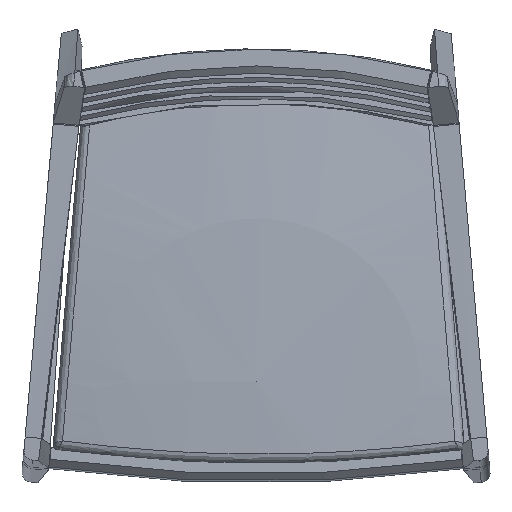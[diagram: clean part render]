
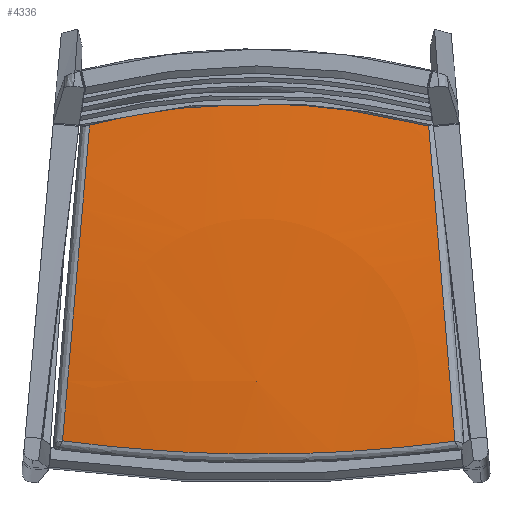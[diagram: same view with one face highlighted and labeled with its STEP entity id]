
A CAD part, top view. The second image highlights one B-rep face of the part: STEP entity #4336.
In plain terms, the highlighted spherical face has radius 3039.64 mm.
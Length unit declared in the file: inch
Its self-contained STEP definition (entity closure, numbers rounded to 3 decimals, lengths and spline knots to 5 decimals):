
#31=SPHERICAL_SURFACE('',#4665,119.67089);
#436=FACE_OUTER_BOUND('',#715,.T.);
#715=EDGE_LOOP('',(#3223,#3224,#3225,#3226,#3227,#3228,#3229,#3230,#3231));
#970=B_SPLINE_CURVE_WITH_KNOTS('',3,(#7085,#7086,#7087,#7088,#7089),
 .UNSPECIFIED.,.F.,.F.,(4,1,4),(0.43653,9.22132,10.57898),
 .UNSPECIFIED.);
#971=B_SPLINE_CURVE_WITH_KNOTS('',3,(#7091,#7092,#7093,#7094),
 .UNSPECIFIED.,.F.,.F.,(4,4),(0.32272,17.71626),
 .UNSPECIFIED.);
#972=B_SPLINE_CURVE_WITH_KNOTS('',3,(#7096,#7097,#7098,#7099,#7100,#7101,
#7102),.UNSPECIFIED.,.F.,.F.,(4,3,4),(-0.00002,4.40806,
8.72227),.UNSPECIFIED.);
#973=B_SPLINE_CURVE_WITH_KNOTS('',3,(#7104,#7105,#7106,#7107),
 .UNSPECIFIED.,.F.,.F.,(4,4),(0.33312,9.05583),
 .UNSPECIFIED.);
#974=B_SPLINE_CURVE_WITH_KNOTS('',3,(#7109,#7110,#7111,#7112),
 .UNSPECIFIED.,.F.,.F.,(4,4),(3.5242,17.84243),
 .UNSPECIFIED.);
#975=B_SPLINE_CURVE_WITH_KNOTS('',3,(#7116,#7117,#7118,#7119),
 .UNSPECIFIED.,.F.,.F.,(4,4),(0.4418,3.5242),
 .UNSPECIFIED.);
#976=B_SPLINE_CURVE_WITH_KNOTS('',3,(#7120,#7121,#7122,#7123,#7124),
 .UNSPECIFIED.,.F.,.F.,(4,1,4),(10.57898,16.30421,20.7211),
 .UNSPECIFIED.);
#1202=CIRCLE('',#4666,119.67089);
#1878=VERTEX_POINT('',#7083);
#1879=VERTEX_POINT('',#7084);
#1880=VERTEX_POINT('',#7090);
#1881=VERTEX_POINT('',#7095);
#1882=VERTEX_POINT('',#7103);
#1883=VERTEX_POINT('',#7108);
#1884=VERTEX_POINT('',#7113);
#1885=VERTEX_POINT('',#7115);
#2378=EDGE_CURVE('',#1878,#1879,#970,.T.);
#2379=EDGE_CURVE('',#1880,#1878,#971,.T.);
#2380=EDGE_CURVE('',#1881,#1880,#972,.T.);
#2381=EDGE_CURVE('',#1882,#1881,#973,.T.);
#2382=EDGE_CURVE('',#1883,#1882,#974,.T.);
#2383=EDGE_CURVE('',#1884,#1883,#1202,.T.);
#2384=EDGE_CURVE('',#1885,#1883,#975,.T.);
#2385=EDGE_CURVE('',#1879,#1885,#976,.T.);
#3223=ORIENTED_EDGE('',*,*,#2378,.F.);
#3224=ORIENTED_EDGE('',*,*,#2379,.F.);
#3225=ORIENTED_EDGE('',*,*,#2380,.F.);
#3226=ORIENTED_EDGE('',*,*,#2381,.F.);
#3227=ORIENTED_EDGE('',*,*,#2382,.F.);
#3228=ORIENTED_EDGE('',*,*,#2383,.F.);
#3229=ORIENTED_EDGE('',*,*,#2383,.T.);
#3230=ORIENTED_EDGE('',*,*,#2384,.F.);
#3231=ORIENTED_EDGE('',*,*,#2385,.F.);
#4336=ADVANCED_FACE('',(#436),#31,.T.);
#4665=AXIS2_PLACEMENT_3D('',#7082,#5139,#5140);
#4666=AXIS2_PLACEMENT_3D('',#7114,#5141,#5142);
#5139=DIRECTION('center_axis',(0.,0.,1.));
#5140=DIRECTION('ref_axis',(1.,0.,0.));
#5141=DIRECTION('center_axis',(0.,-1.,0.));
#5142=DIRECTION('ref_axis',(-1.,0.,0.));
#7082=CARTESIAN_POINT('Origin',(0.00194,5.21302,-102.05401));
#7083=CARTESIAN_POINT('',(10.27597,2.11214,17.13472));
#7084=CARTESIAN_POINT('',(0.13145,1.45257,17.55772));
#7085=CARTESIAN_POINT('Ctrl Pts',(10.27592,2.11225,17.13472));
#7086=CARTESIAN_POINT('Ctrl Pts',(7.37032,1.73005,17.37528));
#7087=CARTESIAN_POINT('Ctrl Pts',(3.98081,1.47913,17.53506));
#7088=CARTESIAN_POINT('Ctrl Pts',(0.58588,1.45217,17.55722));
#7089=CARTESIAN_POINT('Ctrl Pts',(0.13145,1.45257,17.55772));
#7090=CARTESIAN_POINT('',(8.82669,19.4889,16.4342));
#7091=CARTESIAN_POINT('Ctrl Pts',(8.82633,19.48833,16.43426));
#7092=CARTESIAN_POINT('Ctrl Pts',(9.30823,13.72379,17.09301));
#7093=CARTESIAN_POINT('Ctrl Pts',(9.79351,7.9111,17.32733));
#7094=CARTESIAN_POINT('Ctrl Pts',(10.27633,2.11228,17.1347));
#7095=CARTESIAN_POINT('',(0.15394,20.54012,16.6312));
#7096=CARTESIAN_POINT('Ctrl Pts',(0.15394,20.54012,16.6312));
#7097=CARTESIAN_POINT('Ctrl Pts',(1.62948,20.5385,16.62958));
#7098=CARTESIAN_POINT('Ctrl Pts',(3.10484,20.44728,16.61184));
#7099=CARTESIAN_POINT('Ctrl Pts',(4.56912,20.26782,16.57824));
#7100=CARTESIAN_POINT('Ctrl Pts',(6.00222,20.09218,16.54536));
#7101=CARTESIAN_POINT('Ctrl Pts',(7.42472,19.83201,16.49728));
#7102=CARTESIAN_POINT('Ctrl Pts',(8.82638,19.48854,16.43423));
#7103=CARTESIAN_POINT('',(-8.52089,19.50984,16.45375));
#7104=CARTESIAN_POINT('Ctrl Pts',(-8.52064,19.50989,16.45375));
#7105=CARTESIAN_POINT('Ctrl Pts',(-5.68563,20.19726,16.57478));
#7106=CARTESIAN_POINT('Ctrl Pts',(-2.76571,20.54412,16.63455));
#7107=CARTESIAN_POINT('Ctrl Pts',(0.15394,20.54012,16.6312));
#7108=CARTESIAN_POINT('',(-9.74848,5.21302,17.21902));
#7109=CARTESIAN_POINT('Ctrl Pts',(-9.74848,5.21302,17.21902));
#7110=CARTESIAN_POINT('Ctrl Pts',(-9.33941,9.98826,17.25242));
#7111=CARTESIAN_POINT('Ctrl Pts',(-8.9293,14.76532,16.99686));
#7112=CARTESIAN_POINT('Ctrl Pts',(-8.52112,19.50967,16.45374));
#7113=CARTESIAN_POINT('',(0.00194,5.21302,17.61688));
#7114=CARTESIAN_POINT('Origin',(0.00194,5.21302,-102.05401));
#7115=CARTESIAN_POINT('',(-10.01251,2.12961,17.15725));
#7116=CARTESIAN_POINT('Ctrl Pts',(-10.01251,2.12961,17.15726));
#7117=CARTESIAN_POINT('Ctrl Pts',(-9.92457,3.1571,17.19125));
#7118=CARTESIAN_POINT('Ctrl Pts',(-9.83655,4.18502,17.21183));
#7119=CARTESIAN_POINT('Ctrl Pts',(-9.74848,5.21302,17.21902));
#7120=CARTESIAN_POINT('Ctrl Pts',(0.13145,1.45257,17.55772));
#7121=CARTESIAN_POINT('Ctrl Pts',(-1.78493,1.45425,17.55983));
#7122=CARTESIAN_POINT('Ctrl Pts',(-5.17974,1.58348,17.48595));
#7123=CARTESIAN_POINT('Ctrl Pts',(-8.55162,1.93513,17.27494));
#7124=CARTESIAN_POINT('Ctrl Pts',(-10.01251,2.12961,17.15725));
